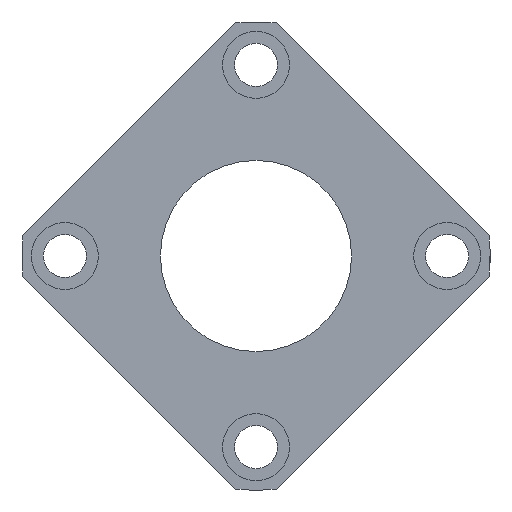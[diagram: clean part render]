
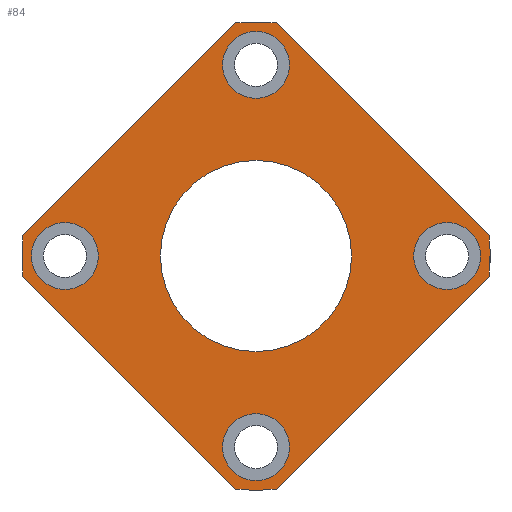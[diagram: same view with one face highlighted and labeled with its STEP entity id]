
A CAD part, left-side view. The second image highlights one B-rep face of the part: STEP entity #84.
In plain terms, the highlighted planar face has unit normal (-1, 0, 0).
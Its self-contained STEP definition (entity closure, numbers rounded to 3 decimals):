
#84 = ADVANCED_FACE( '', ( #125, #126, #127, #128, #129, #130 ), #131, .T. );
#125 = FACE_BOUND( '', #200, .T. );
#126 = FACE_BOUND( '', #201, .T. );
#127 = FACE_OUTER_BOUND( '', #202, .T. );
#128 = FACE_BOUND( '', #203, .T. );
#129 = FACE_BOUND( '', #204, .T. );
#130 = FACE_BOUND( '', #205, .T. );
#131 = PLANE( '', #206 );
#200 = EDGE_LOOP( '', ( #321 ) );
#201 = EDGE_LOOP( '', ( #322 ) );
#202 = EDGE_LOOP( '', ( #323, #324, #325, #326, #327, #328, #329, #330 ) );
#203 = EDGE_LOOP( '', ( #331 ) );
#204 = EDGE_LOOP( '', ( #332 ) );
#205 = EDGE_LOOP( '', ( #333 ) );
#206 = AXIS2_PLACEMENT_3D( '', #334, #335, #336 );
#321 = ORIENTED_EDGE( '', *, *, #444, .T. );
#322 = ORIENTED_EDGE( '', *, *, #434, .T. );
#323 = ORIENTED_EDGE( '', *, *, #445, .F. );
#324 = ORIENTED_EDGE( '', *, *, #430, .F. );
#325 = ORIENTED_EDGE( '', *, *, #419, .F. );
#326 = ORIENTED_EDGE( '', *, *, #427, .F. );
#327 = ORIENTED_EDGE( '', *, *, #415, .F. );
#328 = ORIENTED_EDGE( '', *, *, #429, .F. );
#329 = ORIENTED_EDGE( '', *, *, #423, .F. );
#330 = ORIENTED_EDGE( '', *, *, #443, .F. );
#331 = ORIENTED_EDGE( '', *, *, #446, .T. );
#332 = ORIENTED_EDGE( '', *, *, #447, .T. );
#333 = ORIENTED_EDGE( '', *, *, #448, .T. );
#334 = CARTESIAN_POINT( '', ( 0., 49., 0. ) );
#335 = DIRECTION( '', ( -1., 0., 0. ) );
#336 = DIRECTION( '', ( 0., 0., 1. ) );
#415 = EDGE_CURVE( '', #459, #461, #462, .T. );
#419 = EDGE_CURVE( '', #467, #469, #470, .T. );
#423 = EDGE_CURVE( '', #475, #477, #478, .T. );
#427 = EDGE_CURVE( '', #461, #467, #483, .T. );
#429 = EDGE_CURVE( '', #477, #459, #485, .T. );
#430 = EDGE_CURVE( '', #469, #486, #487, .T. );
#434 = EDGE_CURVE( '', #493, #493, #494, .F. );
#443 = EDGE_CURVE( '', #508, #475, #510, .T. );
#444 = EDGE_CURVE( '', #511, #511, #512, .T. );
#445 = EDGE_CURVE( '', #486, #508, #513, .T. );
#446 = EDGE_CURVE( '', #514, #514, #515, .T. );
#447 = EDGE_CURVE( '', #516, #516, #517, .T. );
#448 = EDGE_CURVE( '', #518, #518, #519, .T. );
#459 = VERTEX_POINT( '', #539 );
#461 = VERTEX_POINT( '', #542 );
#462 = LINE( '', #543, #544 );
#467 = VERTEX_POINT( '', #551 );
#469 = VERTEX_POINT( '', #554 );
#470 = LINE( '', #555, #556 );
#475 = VERTEX_POINT( '', #563 );
#477 = VERTEX_POINT( '', #566 );
#478 = LINE( '', #567, #568 );
#483 = CIRCLE( '', #575, 49. );
#485 = CIRCLE( '', #577, 49. );
#486 = VERTEX_POINT( '', #578 );
#487 = CIRCLE( '', #579, 49. );
#493 = VERTEX_POINT( '', #586 );
#494 = CIRCLE( '', #587, 7. );
#508 = VERTEX_POINT( '', #602 );
#510 = CIRCLE( '', #605, 49. );
#511 = VERTEX_POINT( '', #606 );
#512 = CIRCLE( '', #607, 20. );
#513 = LINE( '', #608, #609 );
#514 = VERTEX_POINT( '', #610 );
#515 = CIRCLE( '', #611, 7. );
#516 = VERTEX_POINT( '', #612 );
#517 = CIRCLE( '', #613, 7. );
#518 = VERTEX_POINT( '', #614 );
#519 = CIRCLE( '', #615, 7. );
#539 = CARTESIAN_POINT( '', ( 0., -48.818, -4.215 ) );
#542 = CARTESIAN_POINT( '', ( 0., -4.215, -48.818 ) );
#543 = CARTESIAN_POINT( '', ( 0., -53.033, 0. ) );
#544 = VECTOR( '', #635, 1000. );
#551 = CARTESIAN_POINT( '', ( 0., 4.215, -48.818 ) );
#554 = CARTESIAN_POINT( '', ( 0., 48.818, -4.215 ) );
#555 = CARTESIAN_POINT( '', ( 0., 0., -53.033 ) );
#556 = VECTOR( '', #639, 1000. );
#563 = CARTESIAN_POINT( '', ( 0., -4.215, 48.818 ) );
#566 = CARTESIAN_POINT( '', ( 0., -48.818, 4.215 ) );
#567 = CARTESIAN_POINT( '', ( 0., 0., 53.033 ) );
#568 = VECTOR( '', #643, 1000. );
#575 = AXIS2_PLACEMENT_3D( '', #649, #650, #651 );
#577 = AXIS2_PLACEMENT_3D( '', #655, #656, #657 );
#578 = CARTESIAN_POINT( '', ( 0., 48.818, 4.215 ) );
#579 = AXIS2_PLACEMENT_3D( '', #658, #659, #660 );
#586 = CARTESIAN_POINT( '', ( 0., 40., 7. ) );
#587 = AXIS2_PLACEMENT_3D( '', #668, #669, #670 );
#602 = CARTESIAN_POINT( '', ( 0., 4.215, 48.818 ) );
#605 = AXIS2_PLACEMENT_3D( '', #691, #692, #693 );
#606 = CARTESIAN_POINT( '', ( 0., 0., -20. ) );
#607 = AXIS2_PLACEMENT_3D( '', #694, #695, #696 );
#608 = CARTESIAN_POINT( '', ( 0., 53.033, 0. ) );
#609 = VECTOR( '', #697, 1000. );
#610 = CARTESIAN_POINT( '', ( 0., 0., 33. ) );
#611 = AXIS2_PLACEMENT_3D( '', #698, #699, #700 );
#612 = CARTESIAN_POINT( '', ( 0., 0., -47. ) );
#613 = AXIS2_PLACEMENT_3D( '', #701, #702, #703 );
#614 = CARTESIAN_POINT( '', ( 0., -40., -7. ) );
#615 = AXIS2_PLACEMENT_3D( '', #704, #705, #706 );
#635 = DIRECTION( '', ( 0., 0.707, -0.707 ) );
#639 = DIRECTION( '', ( 0., 0.707, 0.707 ) );
#643 = DIRECTION( '', ( 0., -0.707, -0.707 ) );
#649 = CARTESIAN_POINT( '', ( 0., 0., 0. ) );
#650 = DIRECTION( '', ( 1., 0., 0. ) );
#651 = DIRECTION( '', ( 0., 0., -1. ) );
#655 = CARTESIAN_POINT( '', ( 0., 0., 0. ) );
#656 = DIRECTION( '', ( 1., 0., 0. ) );
#657 = DIRECTION( '', ( 0., 0., -1. ) );
#658 = CARTESIAN_POINT( '', ( 0., 0., 0. ) );
#659 = DIRECTION( '', ( 1., 0., 0. ) );
#660 = DIRECTION( '', ( 0., 0., -1. ) );
#668 = CARTESIAN_POINT( '', ( 0., 40., 0. ) );
#669 = DIRECTION( '', ( -1., 0., 0. ) );
#670 = DIRECTION( '', ( 0., 0., 1. ) );
#691 = CARTESIAN_POINT( '', ( 0., 0., 0. ) );
#692 = DIRECTION( '', ( 1., 0., 0. ) );
#693 = DIRECTION( '', ( 0., 0., -1. ) );
#694 = CARTESIAN_POINT( '', ( 0., 0., 0. ) );
#695 = DIRECTION( '', ( 1., 0., 0. ) );
#696 = DIRECTION( '', ( 0., 0., -1. ) );
#697 = DIRECTION( '', ( 0., -0.707, 0.707 ) );
#698 = CARTESIAN_POINT( '', ( 0., 0., 40. ) );
#699 = DIRECTION( '', ( 1., 0., 0. ) );
#700 = DIRECTION( '', ( 0., 0., -1. ) );
#701 = CARTESIAN_POINT( '', ( 0., 0., -40. ) );
#702 = DIRECTION( '', ( 1., 0., 0. ) );
#703 = DIRECTION( '', ( 0., 0., -1. ) );
#704 = CARTESIAN_POINT( '', ( 0., -40., 0. ) );
#705 = DIRECTION( '', ( 1., 0., 0. ) );
#706 = DIRECTION( '', ( 0., 0., -1. ) );
